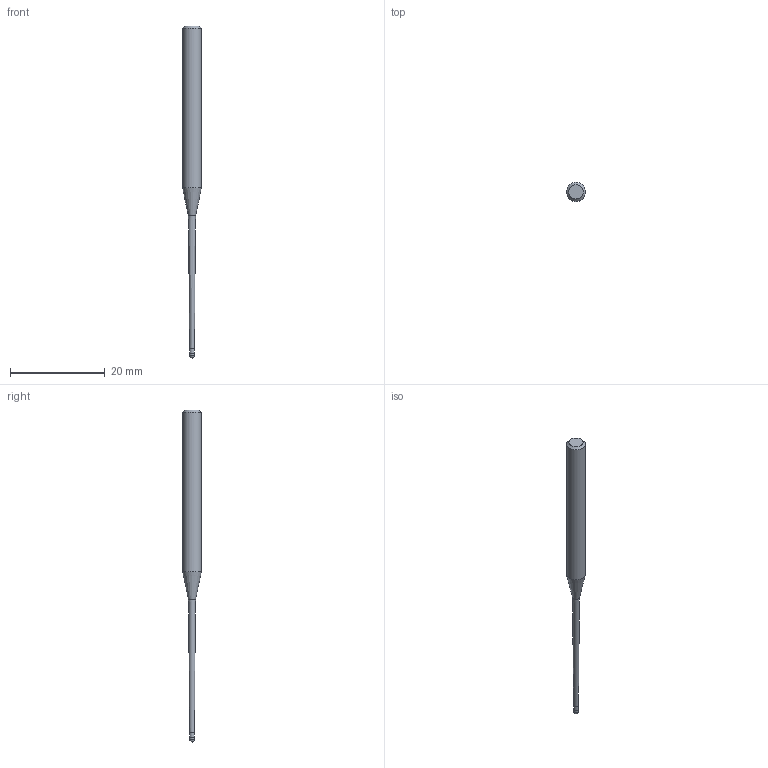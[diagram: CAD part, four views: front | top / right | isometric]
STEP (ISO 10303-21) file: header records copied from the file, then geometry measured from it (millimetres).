
FILE_DESCRIPTION((''),'2;1');
FILE_NAME('C:\Users\nsx150\AppData\Local\Temp\Mastercam 2021\SNAKH10GOD\TEMP.step','2021-10-21T13:32:07',(''),(''),'STEP Write','Mastercam 2021 ... CNC Software, Inc.','');
FILE_SCHEMA(('AUTOMOTIVE_DESIGN'));
Length unit declared in the file: millimetre
Products named in the file (1): None
Bounding box: 4 x 4 x 70 mm (x, y, z)
Volume: 500 mm3; surface area: 605.7 mm2
Topology: 2 solids, 2 shells, 10 faces, 16 edges, 9 vertices
Faces by surface type: plane 3, cylinder 3, cone 3, sphere 1
Full cylindrical faces by diameter (mm): 0.985 x1, 1 x1, 4 x1
Entity records: 232 total; most frequent: DIRECTION 40, CARTESIAN_POINT 28, AXIS2_PLACEMENT_3D 20, ORIENTED_EDGE 16, EDGE_LOOP 16, STYLED_ITEM 13, ADVANCED_FACE 10, FACE_BOUND 9
